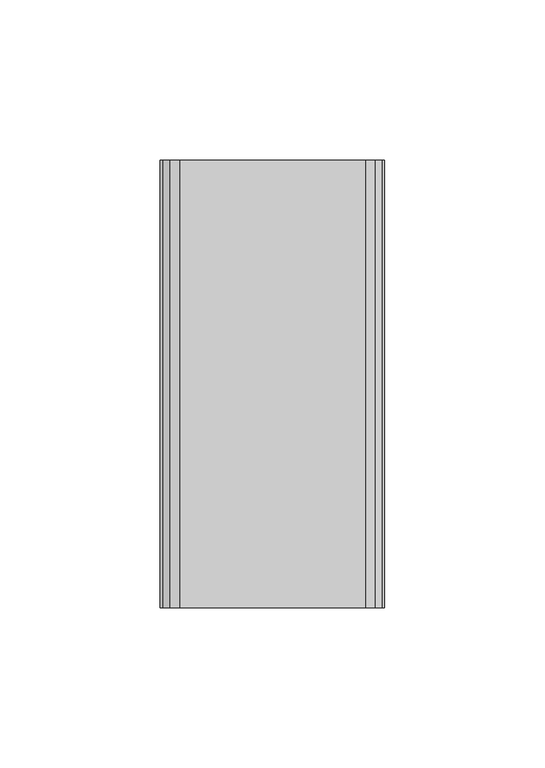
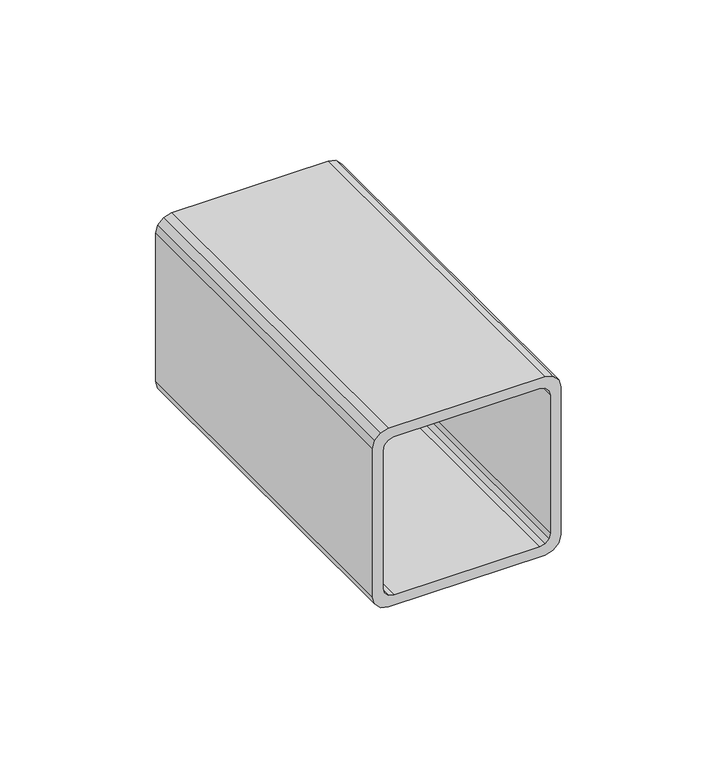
"""IFC4 building model written with IfcOpenShell, lengths in millimetres: beam geometry,  189381 :  189381."""

from ifc_helpers import new_model, si_unit, frame, origin, place, context, project, spatial, polyline, outline, extrude, source, transform, mapped, element, save


def beam_959769e0(model_context):
    return source(origin(), model_context, "Body", "SweptSolid", [
        extrude(outline(polyline([(4590.9478709, 15154.9999999), (4587.9478709, 15155.8038474), (4585.7517184, 15157.9999999), (4584.9478709, 15160.9999999), (4584.9478709, 15218.9999999), (4585.7517184, 15221.9999999), (4587.9478709, 15224.1961523), (4590.9478709, 15224.9999999), (4648.9478709, 15224.9999999), (4651.9478709, 15224.1961523), (4654.1440233, 15221.9999999), (4654.9478709, 15218.9999999), (4654.9478709, 15160.9999999), (4654.1440233, 15157.9999999), (4651.9478709, 15155.8038474), (4648.9478709, 15154.9999999), (4590.9478709, 15154.9999999)]), holes=[polyline([(4646.9478709, 15158.9999999), (4648.9478709, 15159.5358983), (4650.4119725, 15160.9999999), (4650.9478709, 15162.9999999), (4650.9478709, 15216.9999999), (4650.4119725, 15218.9999999), (4648.9478709, 15220.4641015), (4646.9478709, 15220.9999999), (4592.9478709, 15220.9999999), (4590.9478709, 15220.4641015), (4589.4837692, 15218.9999999), (4588.9478709, 15216.9999999), (4588.9478709, 15162.9999999), (4589.4837692, 15160.9999999), (4590.9478709, 15159.5358983), (4592.9478709, 15158.9999999), (4646.9478709, 15158.9999999)])]), frame((0.0, -114.45, 0.0), z_axis=(0.0, 1.0, 0.0), x_axis=(0.0, 0.0, 1.0)), (0.0, 0.0, 1.0), 139.45),
    ])


if __name__ == "__main__":
    model = new_model("IFC4")
    model_context = context("Model", 3, world=origin())
    ifc_project = project(units=[si_unit("LENGTHUNIT", "METRE", prefix="MILLI")], contexts=[model_context])
    site = spatial("IfcSite", under=ifc_project)
    building = spatial("IfcBuilding", under=site)
    placement = place(None, origin())
    beam_shape = beam_959769e0(model_context)
    element("IfcBeam", 1, ObjectType=" 189381 :  189381", at=placement, inside=building, context=model_context, shape_type="MappedRepresentation", body=[
        mapped(beam_shape, transform((0.0, 0.0, 0.0), x_axis=(1.0, 0.0, 0.0), y_axis=(0.0, 1.0, 0.0), z_axis=(0.0, 0.0, 1.0))),
    ])
    save(model, "model.ifc")
